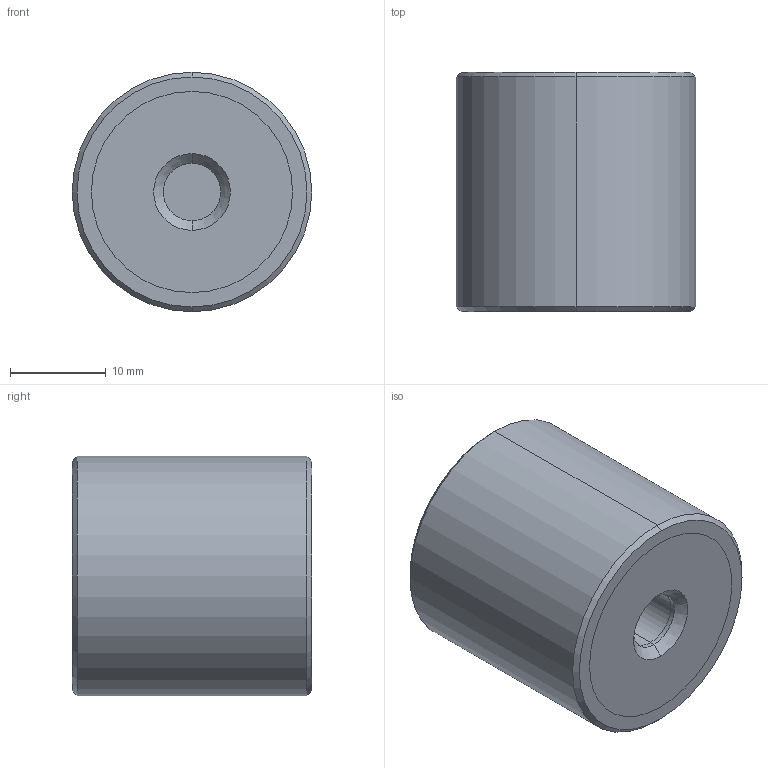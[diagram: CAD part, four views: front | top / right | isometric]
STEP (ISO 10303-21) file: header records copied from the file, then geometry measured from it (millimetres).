
FILE_DESCRIPTION (( 'STEP AP203' ), '1' );
FILE_NAME ('61080.W0252.step', '2018-07-16T20:43:15', ( '' ), ( '' ), 'SwSTEP 2.0', 'SolidWorks 2017', '' );
FILE_SCHEMA (( 'CONFIG_CONTROL_DESIGN' ));
Length unit declared in the file: millimetre
Products named in the file (4): Part3_61080.W0252; 61080.W0252; Part2_61080.W0252; Part1_61080.W0252
Assembly tree (3 placements, depth 2):
  61080.W0252
    Part1_61080.W0252
    Part2_61080.W0252
    Part3_61080.W0252
Bounding box: 25 x 25 x 25 mm (x, y, z)
Volume: 11892.2 mm3; surface area: 4773.5 mm2
Topology: 3 solids, 3 shells, 36 faces, 70 edges, 44 vertices
Faces by surface type: cylinder 18, plane 10, cone 8
Entity records: 1356 total; most frequent: DIRECTION 198, CARTESIAN_POINT 156, ORIENTED_EDGE 140, AXIS2_PLACEMENT_3D 86, EDGE_CURVE 70, CIRCLE 44, VERTEX_POINT 44, EDGE_LOOP 44
